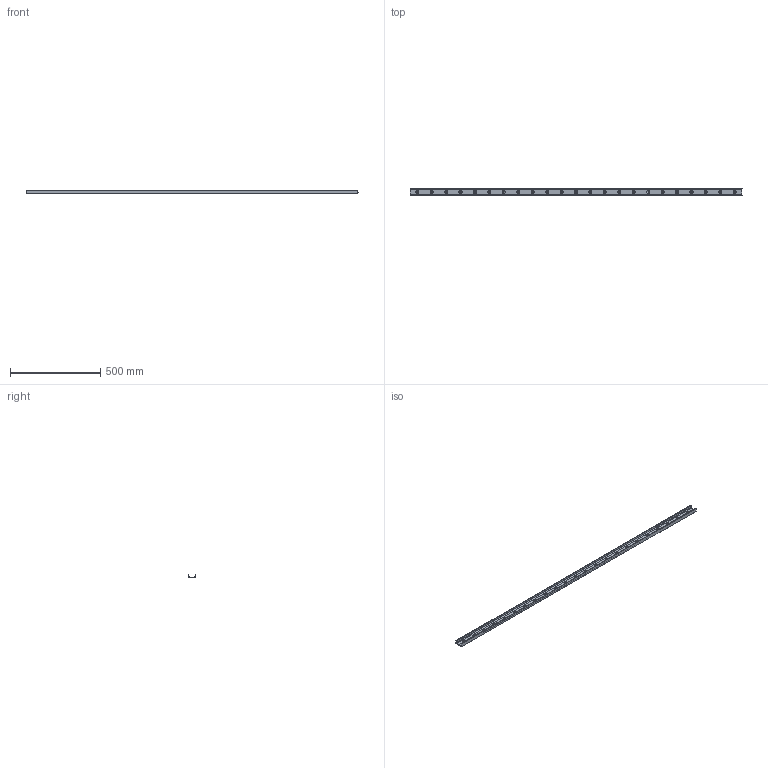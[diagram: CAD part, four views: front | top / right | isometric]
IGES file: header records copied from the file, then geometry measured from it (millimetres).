
Start section: SolidWorks IGES file using analytic representation for surfaces
Global section: file name: C:\Users\IanO\Desktop\43\L1943.ULV43_v2_20180121_IGES\L1943.ULV43-1840.igs; native system: SolidWorks 2017; preprocessor: SolidWorks 2017; author: IanO; date: 190121.090153; units: millimetre
Bounding box: 1840 x 43 x 21 mm (x, y, z)
Surface area: 285736.8 mm2 (no closed solid volume)
Topology: 0 solids, 0 shells, 118 faces, 2134 edges, 2134 vertices
Faces by surface type: revolution 105, bspline 13
